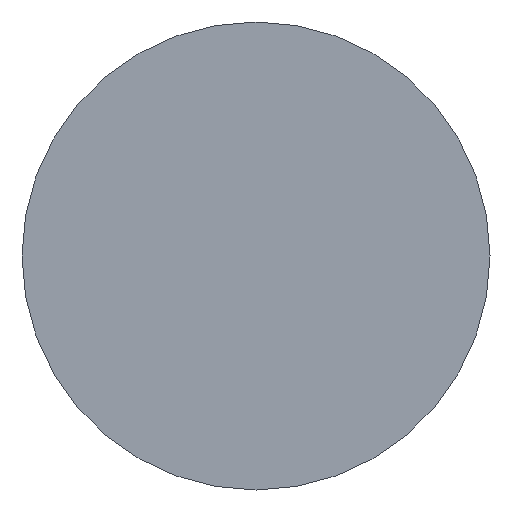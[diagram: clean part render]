
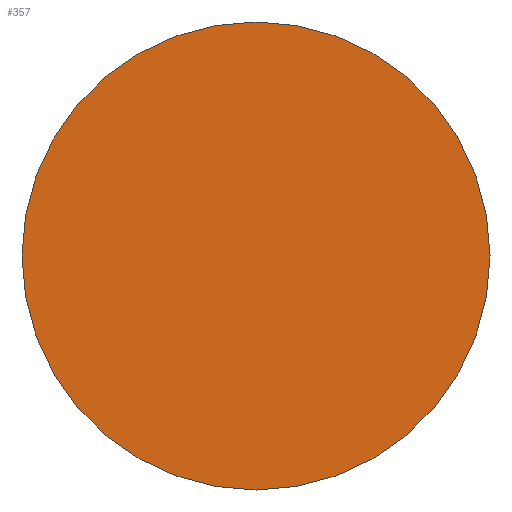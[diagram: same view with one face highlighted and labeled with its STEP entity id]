
A CAD part, front view. The second image highlights one B-rep face of the part: STEP entity #357.
In plain terms, the highlighted planar face has unit normal (0, -1, 0).
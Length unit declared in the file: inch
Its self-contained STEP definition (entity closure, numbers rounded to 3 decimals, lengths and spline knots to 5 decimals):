
#43 = DIRECTION ( 'NONE',  ( 0., 0., -1. ) ) ;
#44 = DIRECTION ( 'NONE',  ( 0., 1., 0. ) ) ;
#45 = CARTESIAN_POINT ( 'NONE',  ( 0., -0.417, 0. ) ) ;
#65 = PLANE ( 'NONE',  #396 ) ;
#80 = DIRECTION ( 'NONE',  ( 0., 0., -1. ) ) ;
#82 = DIRECTION ( 'NONE',  ( 0., 1., 0. ) ) ;
#83 = CARTESIAN_POINT ( 'NONE',  ( 0., -0.417, 0. ) ) ;
#130 = CARTESIAN_POINT ( 'NONE',  ( 0., -0.417, -0.3275 ) ) ;
#143 = CARTESIAN_POINT ( 'NONE',  ( 0., -0.417, 0.3275 ) ) ;
#161 = DIRECTION ( 'NONE',  ( 0., 0., -1. ) ) ;
#162 = DIRECTION ( 'NONE',  ( 0., -1., 0. ) ) ;
#163 = CARTESIAN_POINT ( 'NONE',  ( -0.193, -0.417, 0. ) ) ;
#189 = ORIENTED_EDGE ( 'NONE', *, *, #436, .F. ) ;
#206 = CIRCLE ( 'NONE', #376, 0.3275 ) ;
#252 = CIRCLE ( 'NONE', #370, 0.3275 ) ;
#257 = FACE_OUTER_BOUND ( 'NONE', #337, .T. ) ;
#274 = VERTEX_POINT ( 'NONE', #130 ) ;
#275 = VERTEX_POINT ( 'NONE', #143 ) ;
#325 = ORIENTED_EDGE ( 'NONE', *, *, #426, .F. ) ;
#337 = EDGE_LOOP ( 'NONE', ( #189, #325 ) ) ;
#357 = ADVANCED_FACE ( 'NONE', ( #257 ), #65, .T. ) ;
#370 = AXIS2_PLACEMENT_3D ( 'NONE', #45, #44, #43 ) ;
#376 = AXIS2_PLACEMENT_3D ( 'NONE', #83, #82, #80 ) ;
#396 = AXIS2_PLACEMENT_3D ( 'NONE', #163, #162, #161 ) ;
#426 = EDGE_CURVE ( 'NONE', #274, #275, #206, .T. ) ;
#436 = EDGE_CURVE ( 'NONE', #275, #274, #252, .T. ) ;
